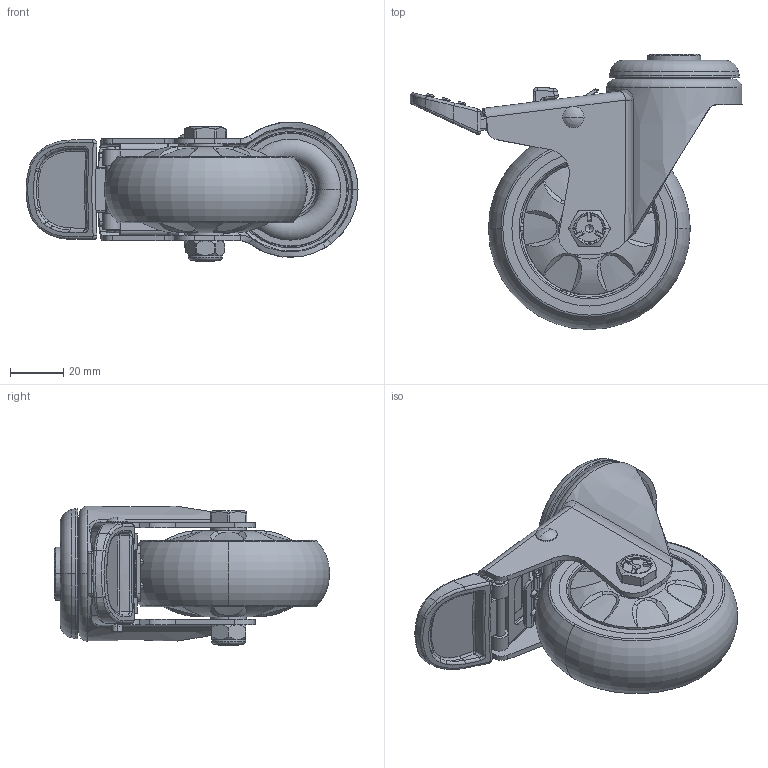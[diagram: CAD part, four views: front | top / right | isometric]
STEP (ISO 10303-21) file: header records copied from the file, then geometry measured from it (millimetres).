
FILE_DESCRIPTION((''),'2;1');
FILE_NAME('08-03D-75_ASM','2024-07-29T',('xxy'),(''),'PRO/ENGINEER BY PARAMETRIC TECHNOLOGY CORPORATION, 2010280','PRO/ENGINEER BY PARAMETRIC TECHNOLOGY CORPORATION, 2010280','');
FILE_SCHEMA(('CONFIG_CONTROL_DESIGN'));
Length unit declared in the file: millimetre
Products named in the file (22): 0834-6GQ-01; 0834-5GQ-01; 0834-SBP-01; 0834-XBP-01; PD-17X10X2_5-01; 0834-KDWD-01; 0830-SSZJ-01; LM-M8-01; LG-M8X46_5-01; 0830-LX-01; 0830-WB-01; ZC26002; ZC16002; GZ6002; ZC46002; 6002_ASM; 0830-FCG-01; 0830-PU-01_ASM; MD-4X41-01; 0834-SSSB-01; 0830-SSP-01; 08-03D-75_ASM
Assembly tree (23 placements, depth 4):
  08-03D-75_ASM
    0834-6GQ-01
    0834-5GQ-01
    0834-SBP-01
    0834-XBP-01
    PD-17X10X2_5-01
    0834-KDWD-01
    0830-SSZJ-01
    LM-M8-01
    LG-M8X46_5-01
    0830-PU-01_ASM
      0830-LX-01
      0830-WB-01
      6002_ASM
        ZC26002
        ZC16002
        GZ6002
        ZC46002  x2
      0830-FCG-01  x2
    MD-4X41-01
    0834-SSSB-01
    0830-SSP-01
Bounding box: 125.09 x 103.64 x 52.74 mm (x, y, z)
Volume: 134662.4 mm3; surface area: 99250.9 mm2
Topology: 59 solids, 59 shells, 1687 faces, 4339 edges, 2604 vertices
Faces by surface type: plane 449, bspline 430, cylinder 388, torus 148, cone 108, sphere 98, extrusion 54, revolution 12
Entity records: 66613 total; most frequent: CARTESIAN_POINT 31278, ORIENTED_EDGE 7802, DIRECTION 6563, EDGE_CURVE 3901, AXIS2_PLACEMENT_3D 2593, VERTEX_POINT 2440, EDGE_LOOP 1661, FACE_OUTER_BOUND 1583
